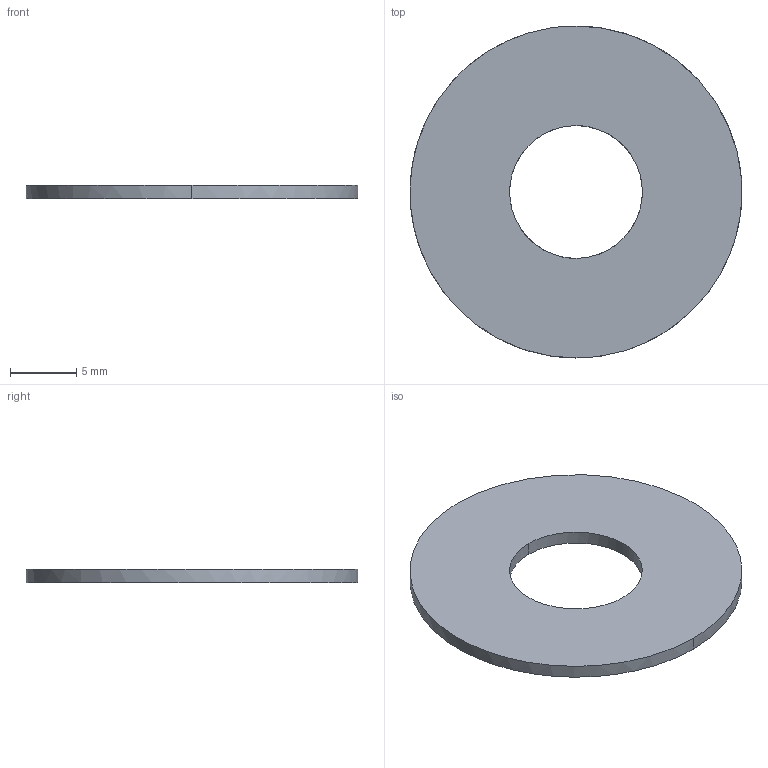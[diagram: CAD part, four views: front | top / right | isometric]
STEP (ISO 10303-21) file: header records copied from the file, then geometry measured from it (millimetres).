
FILE_DESCRIPTION(/* description */ (''),/* implementation_level */ '2;1');
FILE_NAME(/* name */ 'X-6837~1',/* time_stamp */ '2014-02-14T19:47:25+01:00',/* author */ (''),/* organization */ (''),/* preprocessor_version */ 'ST-DEVELOPER v14',/* originating_system */ '',/* authorisation */ '');
FILE_SCHEMA (('AUTOMOTIVE_DESIGN'));
Length unit declared in the file: millimetre
Products named in the file (1): Document
Bounding box: 24.99 x 25 x 1 mm (x, y, z)
Volume: 413.6 mm3; surface area: 937 mm2
Topology: 1 solids, 1 shells, 6 faces, 12 edges, 8 vertices
Faces by surface type: bspline 4, plane 2
Entity records: 418 total; most frequent: CARTESIAN_POINT 232, ORIENTED_EDGE 24, PCURVE 24, DEFINITIONAL_REPRESENTATION 24, B_SPLINE_CURVE_WITH_KNOTS 20, SURFACE_CURVE 12, EDGE_CURVE 12, EDGE_LOOP 8
